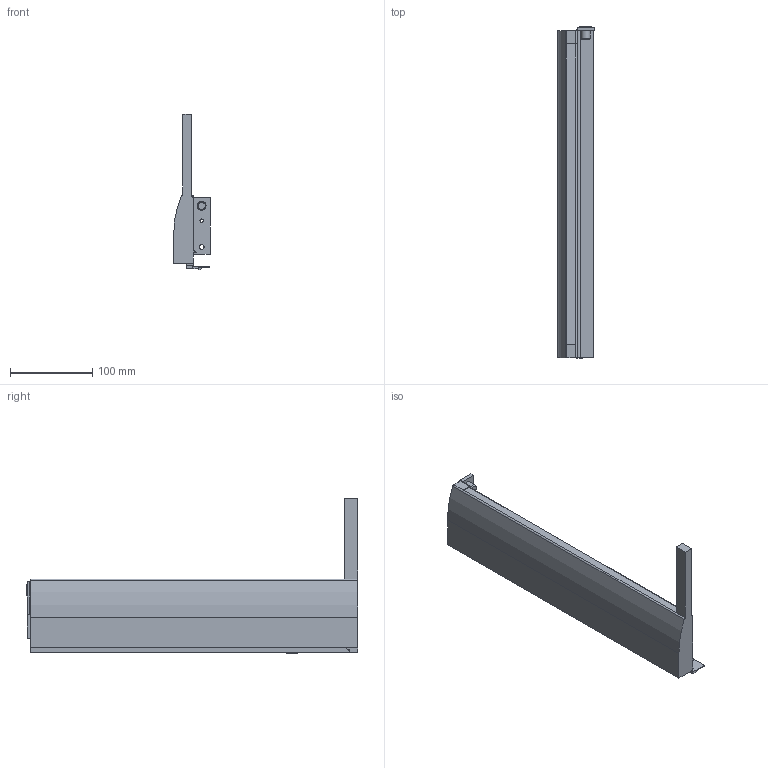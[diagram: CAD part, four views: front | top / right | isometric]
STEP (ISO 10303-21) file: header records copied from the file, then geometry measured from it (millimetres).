
FILE_DESCRIPTION (( 'STEP AP214' ), '1' );
FILE_NAME ('_IMOS_NOVA-Pro_Crystal_Dekor-H90_DL_NL400_LI.step', '2010-07-14T12:43:23', ( 'grass' ), ( '' ), 'SwSTEP 2.0', 'SolidWorks 2009', '' );
FILE_SCHEMA (( 'AUTOMOTIVE_DESIGN' ));
Length unit declared in the file: millimetre
Products named in the file (1): _IMOS_NOVA-Pro_Crystal_Dekor-H90_DL_NL400_LI
Bounding box: 44.3 x 402.7 x 188.49 mm (x, y, z)
Volume: 456075 mm3; surface area: 143871.5 mm2
Topology: 1 solids, 1 shells, 87 faces, 235 edges, 155 vertices
Faces by surface type: plane 55, cylinder 27, cone 4, bspline 1
Entity records: 2781 total; most frequent: CARTESIAN_POINT 499, ORIENTED_EDGE 470, DIRECTION 466, EDGE_CURVE 235, VECTOR 174, LINE 174, VERTEX_POINT 155, AXIS2_PLACEMENT_3D 146
